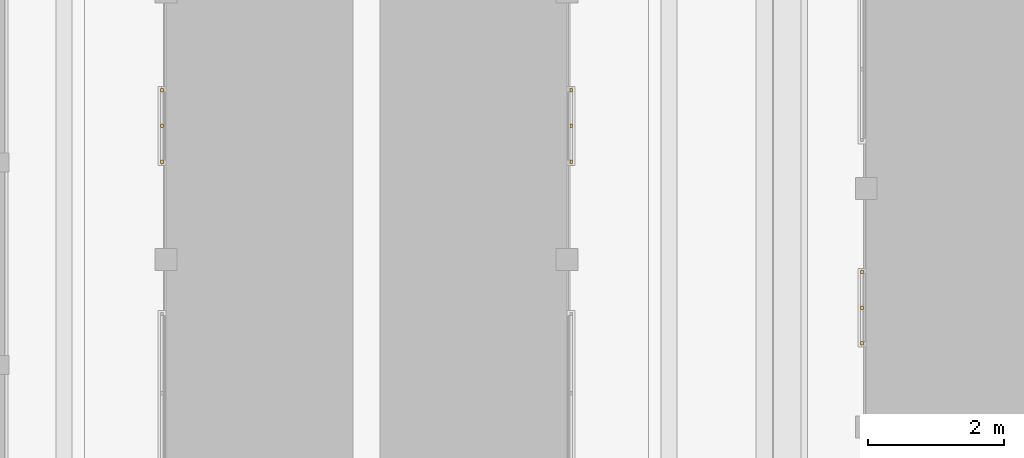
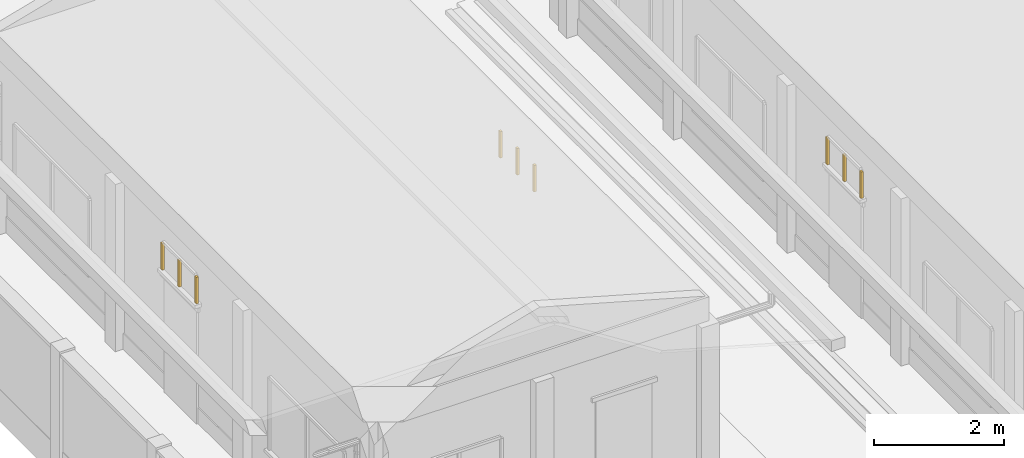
# One storey, part 83 of 177: 9 windows.
"""IFC4 building model written with IfcOpenShell, lengths in metres."""

from ifc_helpers import new_model, si_unit, origin, origin_with_axes, place, context, subcontext, project, spatial, triangles, element, save


model = new_model("IFC4")

# Units and contexts
model_context = context("Model", 3, precision=1e-05, world=origin_with_axes())
body_context = subcontext(model_context, "Body", "Model", "MODEL_VIEW")
ifc_project = project(units=[si_unit("LENGTHUNIT", "METRE"), si_unit("AREAUNIT", "SQUARE_METRE"), si_unit("VOLUMEUNIT", "CUBIC_METRE"), si_unit("PLANEANGLEUNIT", "RADIAN")], contexts=[model_context])

# Site, building, storey
site_placement = place(None, origin_with_axes())
site = spatial("IfcSite", under=ifc_project, at=site_placement, Name="Predio Los Mangos - Morales, San Martín", CompositionType="ELEMENT")
building_placement = place(site_placement, origin())
building = spatial("IfcBuilding", under=site, at=building_placement, Name="Hogar de Refugio Temporal", CompositionType="ELEMENT")
storey_placement = place(building_placement, origin())
storey = spatial("IfcBuildingStorey", under=building, at=storey_placement, Name="NIVEL 1 (NPT +0.00)", CompositionType="ELEMENT", Elevation=0.0)

# Windows
window_1_placement = place(storey_placement, origin())
element("IfcWindow", 1, at=window_1_placement, inside=storey, Name="E-04_vt7_m", ObjectType="Ventana", PredefinedType="WINDOW", context=body_context, shape_type="Tessellation", body=[
    triangles([(13.72, 77.875, 2.45), (13.76, 77.875, 2.45), (13.76, 77.925, 2.45), (13.72, 77.925, 2.45), (13.72, 77.875, 2.95), (13.76, 77.875, 2.95), (13.76, 77.925, 2.95), (13.72, 77.925, 2.95)], [[1, 4, 3], [1, 3, 2], [5, 6, 7], [5, 7, 8], [1, 2, 6], [1, 6, 5], [2, 3, 7], [2, 7, 6], [3, 4, 8], [3, 8, 7], [4, 1, 5], [4, 5, 8]]),
])
window_2_placement = place(storey_placement, origin())
element("IfcWindow", 2, at=window_2_placement, inside=storey, Name="E-04_vt7_m", ObjectType="Ventana", PredefinedType="WINDOW", context=body_context, shape_type="Tessellation", body=[
    triangles([(13.72, 78.925, 2.45), (13.76, 78.925, 2.45), (13.76, 78.975, 2.45), (13.72, 78.975, 2.45), (13.72, 78.925, 2.95), (13.76, 78.925, 2.95), (13.76, 78.975, 2.95), (13.72, 78.975, 2.95)], [[1, 4, 3], [1, 3, 2], [5, 6, 7], [5, 7, 8], [1, 2, 6], [1, 6, 5], [2, 3, 7], [2, 7, 6], [3, 4, 8], [3, 8, 7], [4, 1, 5], [4, 5, 8]]),
])
window_3_placement = place(storey_placement, origin())
element("IfcWindow", 3, at=window_3_placement, inside=storey, Name="E-04_vt7_m", ObjectType="Ventana", PredefinedType="WINDOW", context=body_context, shape_type="Tessellation", body=[
    triangles([(13.72, 78.4, 2.45), (13.76, 78.4, 2.45), (13.76, 78.45, 2.45), (13.72, 78.45, 2.45), (13.72, 78.4, 2.95), (13.76, 78.4, 2.95), (13.76, 78.45, 2.95), (13.72, 78.45, 2.95)], [[1, 4, 3], [1, 3, 2], [5, 6, 7], [5, 7, 8], [1, 2, 6], [1, 6, 5], [2, 3, 7], [2, 7, 6], [3, 4, 8], [3, 8, 7], [4, 1, 5], [4, 5, 8]]),
])
window_4_placement = place(storey_placement, origin())
element("IfcWindow", 4, at=window_4_placement, inside=storey, Name="E-09_vt1_m", ObjectType="Ventana", PredefinedType="WINDOW", context=body_context, shape_type="Tessellation", body=[
    triangles([(3.42, 80.55, 2.45), (3.46, 80.55, 2.45), (3.46, 80.6, 2.45), (3.42, 80.6, 2.45), (3.42, 80.55, 2.95), (3.46, 80.55, 2.95), (3.46, 80.6, 2.95), (3.42, 80.6, 2.95)], [[1, 4, 3], [1, 3, 2], [5, 6, 7], [5, 7, 8], [1, 2, 6], [1, 6, 5], [2, 3, 7], [2, 7, 6], [3, 4, 8], [3, 8, 7], [4, 1, 5], [4, 5, 8]]),
])
window_5_placement = place(storey_placement, origin())
element("IfcWindow", 5, at=window_5_placement, inside=storey, Name="E-09_vt1_m", ObjectType="Ventana", PredefinedType="WINDOW", context=body_context, shape_type="Tessellation", body=[
    triangles([(3.42, 81.6, 2.45), (3.46, 81.6, 2.45), (3.46, 81.65, 2.45), (3.42, 81.65, 2.45), (3.42, 81.6, 2.95), (3.46, 81.6, 2.95), (3.46, 81.65, 2.95), (3.42, 81.65, 2.95)], [[1, 4, 3], [1, 3, 2], [5, 6, 7], [5, 7, 8], [1, 2, 6], [1, 6, 5], [2, 3, 7], [2, 7, 6], [3, 4, 8], [3, 8, 7], [4, 1, 5], [4, 5, 8]]),
])
window_6_placement = place(storey_placement, origin())
element("IfcWindow", 6, at=window_6_placement, inside=storey, Name="E-09_vt1_m", ObjectType="Ventana", PredefinedType="WINDOW", context=body_context, shape_type="Tessellation", body=[
    triangles([(3.42, 81.075, 2.45), (3.46, 81.075, 2.45), (3.46, 81.125, 2.45), (3.42, 81.125, 2.45), (3.42, 81.075, 2.95), (3.46, 81.075, 2.95), (3.46, 81.125, 2.95), (3.42, 81.125, 2.95)], [[1, 4, 3], [1, 3, 2], [5, 6, 7], [5, 7, 8], [1, 2, 6], [1, 6, 5], [2, 3, 7], [2, 7, 6], [3, 4, 8], [3, 8, 7], [4, 1, 5], [4, 5, 8]]),
])
window_7_placement = place(storey_placement, origin())
element("IfcWindow", 7, at=window_7_placement, inside=storey, Name="E-09_vt1_m", ObjectType="Ventana", PredefinedType="WINDOW", context=body_context, shape_type="Tessellation", body=[
    triangles([(9.44, 80.55, 2.45), (9.48, 80.55, 2.45), (9.48, 80.6, 2.45), (9.44, 80.6, 2.45), (9.44, 80.55, 2.95), (9.48, 80.55, 2.95), (9.48, 80.6, 2.95), (9.44, 80.6, 2.95)], [[1, 4, 3], [1, 3, 2], [5, 6, 7], [5, 7, 8], [1, 2, 6], [1, 6, 5], [2, 3, 7], [2, 7, 6], [3, 4, 8], [3, 8, 7], [4, 1, 5], [4, 5, 8]]),
])
window_8_placement = place(storey_placement, origin())
element("IfcWindow", 8, at=window_8_placement, inside=storey, Name="E-09_vt1_m", ObjectType="Ventana", PredefinedType="WINDOW", context=body_context, shape_type="Tessellation", body=[
    triangles([(9.44, 81.6, 2.45), (9.48, 81.6, 2.45), (9.48, 81.65, 2.45), (9.44, 81.65, 2.45), (9.44, 81.6, 2.95), (9.48, 81.6, 2.95), (9.48, 81.65, 2.95), (9.44, 81.65, 2.95)], [[1, 4, 3], [1, 3, 2], [5, 6, 7], [5, 7, 8], [1, 2, 6], [1, 6, 5], [2, 3, 7], [2, 7, 6], [3, 4, 8], [3, 8, 7], [4, 1, 5], [4, 5, 8]]),
])
window_9_placement = place(storey_placement, origin())
element("IfcWindow", 9, at=window_9_placement, inside=storey, Name="E-09_vt1_m", ObjectType="Ventana", PredefinedType="WINDOW", context=body_context, shape_type="Tessellation", body=[
    triangles([(9.44, 81.075, 2.45), (9.48, 81.075, 2.45), (9.48, 81.125, 2.45), (9.44, 81.125, 2.45), (9.44, 81.075, 2.95), (9.48, 81.075, 2.95), (9.48, 81.125, 2.95), (9.44, 81.125, 2.95)], [[1, 4, 3], [1, 3, 2], [5, 6, 7], [5, 7, 8], [1, 2, 6], [1, 6, 5], [2, 3, 7], [2, 7, 6], [3, 4, 8], [3, 8, 7], [4, 1, 5], [4, 5, 8]]),
])

save(model, "model.ifc")
